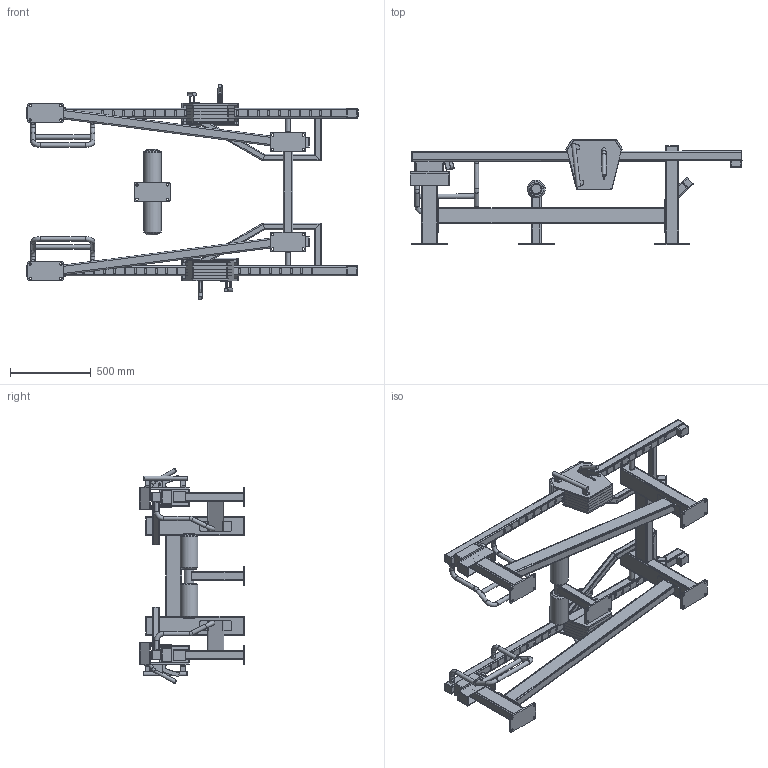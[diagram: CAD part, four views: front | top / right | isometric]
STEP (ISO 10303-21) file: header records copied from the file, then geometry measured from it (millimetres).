
FILE_DESCRIPTION(/* description */ (''),/* implementation_level */ '2;1');
FILE_NAME(/* name */ 'OG12_3D_Low.step',/* time_stamp */ '2025-11-11T15:57:32+02:00',/* author */ (''),/* organization */ (''),/* preprocessor_version */ 'ST-DEVELOPER v20.1',/* originating_system */ 'Autodesk Translation Framework v14.21.0.0',/* authorisation */ '');
FILE_SCHEMA (('AUTOMOTIVE_DESIGN { 1 0 10303 214 3 1 1 }'));
Length unit declared in the file: millimetre
Products named in the file (1): OG12_3D_Low
Bounding box: 2055.6 x 654.31 x 1332.93 mm (x, y, z)
Volume: 34244141.8 mm3; surface area: 10021096.3 mm2
Topology: 102 solids, 102 shells, 1641 faces, 4071 edges, 2613 vertices
Faces by surface type: plane 905, cylinder 652, torus 38, sphere 24, bspline 16, cone 6
Full cylindrical faces by diameter (mm): 10 x3, 11.8 x1, 13 x32, 15 x20, 18 x2, 20 x10, 21 x1, 24.96 x2, 25 x8, 28 x20, 30 x6, 40 x1, 42 x2, 55.1 x1, 60 x2, 60.3 x1, 110 x2
Entity records: 50884 total; most frequent: CARTESIAN_POINT 10365, DIRECTION 8616, ORIENTED_EDGE 8078, EDGE_CURVE 4039, AXIS2_PLACEMENT_3D 3002, VERTEX_POINT 2613, LINE 2612, VECTOR 2612
